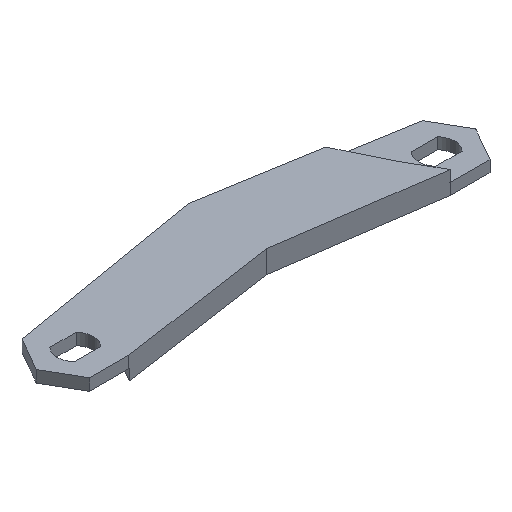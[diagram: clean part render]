
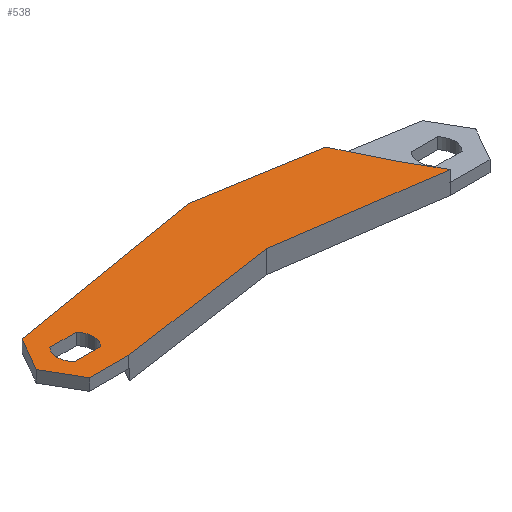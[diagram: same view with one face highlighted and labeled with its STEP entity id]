
A CAD part, isometric view. The second image highlights one B-rep face of the part: STEP entity #538.
In plain terms, the highlighted planar face has unit normal (0, 0, 1).
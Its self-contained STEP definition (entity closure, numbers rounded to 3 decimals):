
#30=FACE_BOUND('',#98,.T.);
#32=CIRCLE('',#559,8.);
#34=CIRCLE('',#563,8.);
#68=FACE_OUTER_BOUND('',#97,.T.);
#97=EDGE_LOOP('',(#478,#479,#480,#481,#482,#483,#484,#485,#486));
#98=EDGE_LOOP('',(#487,#488,#489,#490));
#101=LINE('',#750,#165);
#105=LINE('',#762,#169);
#135=LINE('',#834,#199);
#137=LINE('',#839,#201);
#141=LINE('',#847,#205);
#153=LINE('',#869,#217);
#155=LINE('',#873,#219);
#157=LINE('',#877,#221);
#159=LINE('',#881,#223);
#160=LINE('',#884,#224);
#162=LINE('',#887,#226);
#165=VECTOR('',#605,10.);
#169=VECTOR('',#617,10.);
#199=VECTOR('',#679,10.);
#201=VECTOR('',#683,10.);
#205=VECTOR('',#689,10.);
#217=VECTOR('',#711,10.);
#219=VECTOR('',#715,10.);
#221=VECTOR('',#719,10.);
#223=VECTOR('',#723,10.);
#224=VECTOR('',#726,10.);
#226=VECTOR('',#730,10.);
#229=VERTEX_POINT('',#747);
#230=VERTEX_POINT('',#749);
#232=VERTEX_POINT('',#755);
#234=VERTEX_POINT('',#761);
#259=VERTEX_POINT('',#831);
#260=VERTEX_POINT('',#833);
#261=VERTEX_POINT('',#837);
#262=VERTEX_POINT('',#838);
#265=VERTEX_POINT('',#846);
#271=VERTEX_POINT('',#871);
#272=VERTEX_POINT('',#875);
#273=VERTEX_POINT('',#879);
#274=VERTEX_POINT('',#883);
#277=EDGE_CURVE('',#230,#229,#101,.T.);
#280=EDGE_CURVE('',#232,#230,#32,.T.);
#283=EDGE_CURVE('',#234,#232,#105,.T.);
#286=EDGE_CURVE('',#229,#234,#34,.T.);
#319=EDGE_CURVE('',#260,#259,#135,.T.);
#321=EDGE_CURVE('',#261,#262,#137,.T.);
#325=EDGE_CURVE('',#265,#261,#141,.T.);
#337=EDGE_CURVE('',#260,#262,#153,.T.);
#339=EDGE_CURVE('',#259,#271,#155,.T.);
#341=EDGE_CURVE('',#271,#272,#157,.T.);
#343=EDGE_CURVE('',#272,#273,#159,.T.);
#344=EDGE_CURVE('',#274,#273,#160,.T.);
#346=EDGE_CURVE('',#274,#265,#162,.T.);
#478=ORIENTED_EDGE('',*,*,#321,.T.);
#479=ORIENTED_EDGE('',*,*,#337,.F.);
#480=ORIENTED_EDGE('',*,*,#319,.T.);
#481=ORIENTED_EDGE('',*,*,#339,.T.);
#482=ORIENTED_EDGE('',*,*,#341,.T.);
#483=ORIENTED_EDGE('',*,*,#343,.T.);
#484=ORIENTED_EDGE('',*,*,#344,.F.);
#485=ORIENTED_EDGE('',*,*,#346,.T.);
#486=ORIENTED_EDGE('',*,*,#325,.T.);
#487=ORIENTED_EDGE('',*,*,#283,.T.);
#488=ORIENTED_EDGE('',*,*,#280,.T.);
#489=ORIENTED_EDGE('',*,*,#277,.T.);
#490=ORIENTED_EDGE('',*,*,#286,.T.);
#512=PLANE('',#589);
#538=ADVANCED_FACE('',(#68,#30),#512,.T.);
#559=AXIS2_PLACEMENT_3D('',#756,#611,#612);
#563=AXIS2_PLACEMENT_3D('',#766,#623,#624);
#589=AXIS2_PLACEMENT_3D('',#888,#731,#732);
#605=DIRECTION('',(1.,0.,0.));
#611=DIRECTION('center_axis',(0.,0.,-1.));
#612=DIRECTION('ref_axis',(-1.,0.,0.));
#617=DIRECTION('',(-1.,0.,0.));
#623=DIRECTION('center_axis',(0.,0.,-1.));
#624=DIRECTION('ref_axis',(-1.,0.,0.));
#679=DIRECTION('',(-0.986,-0.167,0.));
#683=DIRECTION('',(-0.437,0.899,0.));
#689=DIRECTION('',(-0.5,0.866,0.));
#711=DIRECTION('',(0.986,-0.167,0.));
#715=DIRECTION('',(-0.5,-0.866,0.));
#719=DIRECTION('',(0.5,-0.866,0.));
#723=DIRECTION('',(1.,0.,0.));
#726=DIRECTION('',(-0.99,-0.144,0.));
#730=DIRECTION('',(0.99,-0.144,0.));
#731=DIRECTION('center_axis',(0.,0.,1.));
#732=DIRECTION('ref_axis',(1.,0.,0.));
#747=CARTESIAN_POINT('',(-74.191,-94.5,0.));
#749=CARTESIAN_POINT('',(-85.809,-94.5,0.));
#750=CARTESIAN_POINT('',(-42.905,-94.5,0.));
#755=CARTESIAN_POINT('',(-85.809,-105.5,0.));
#756=CARTESIAN_POINT('Origin',(-80.,-100.,0.));
#761=CARTESIAN_POINT('',(-74.191,-105.5,0.));
#762=CARTESIAN_POINT('',(-37.095,-105.5,0.));
#766=CARTESIAN_POINT('Origin',(-80.,-100.,0.));
#831=CARTESIAN_POINT('',(-88.66,-85.,0.));
#833=CARTESIAN_POINT('',(0.,-70.,0.));
#834=CARTESIAN_POINT('',(0.,-70.,0.));
#837=CARTESIAN_POINT('',(62.503,-100.094,0.));
#838=CARTESIAN_POINT('',(52.158,-78.824,0.));
#839=CARTESIAN_POINT('',(55.029,-84.728,0.));
#846=CARTESIAN_POINT('',(71.088,-114.963,0.));
#847=CARTESIAN_POINT('',(57.378,-91.217,0.));
#869=CARTESIAN_POINT('',(0.,-70.,0.));
#871=CARTESIAN_POINT('',(-97.321,-100.,0.));
#873=CARTESIAN_POINT('',(-88.66,-85.,0.));
#875=CARTESIAN_POINT('',(-88.66,-115.,0.));
#877=CARTESIAN_POINT('',(-97.321,-100.,0.));
#879=CARTESIAN_POINT('',(-71.34,-115.,0.));
#881=CARTESIAN_POINT('',(-88.66,-115.,0.));
#883=CARTESIAN_POINT('',(0.,-104.6,0.));
#884=CARTESIAN_POINT('',(0.,-104.6,0.));
#887=CARTESIAN_POINT('',(0.,-104.6,0.));
#888=CARTESIAN_POINT('Origin',(0.,-92.5,0.));
